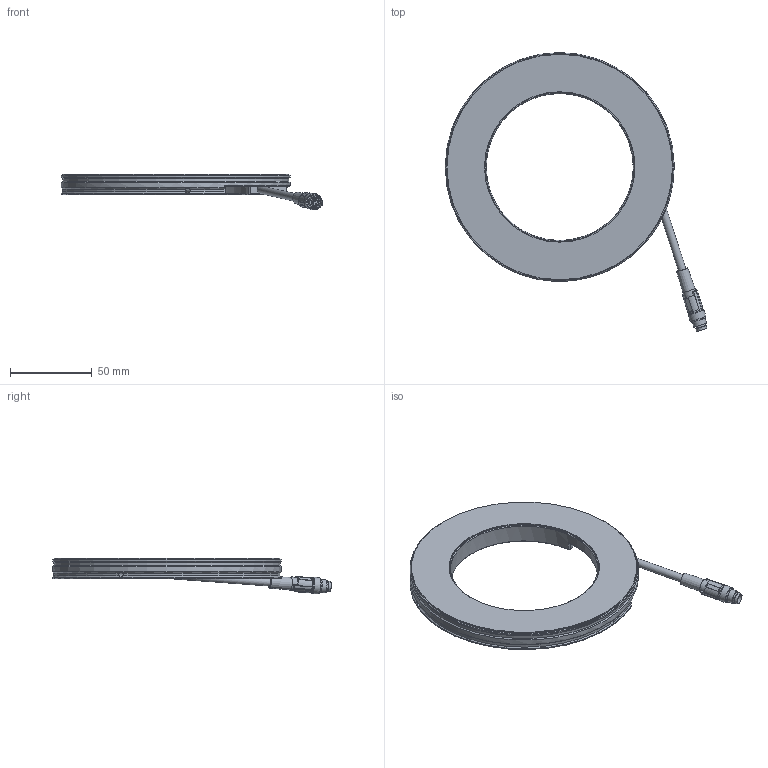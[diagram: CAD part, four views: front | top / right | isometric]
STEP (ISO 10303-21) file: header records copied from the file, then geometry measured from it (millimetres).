
FILE_DESCRIPTION(/* description */ ('Unknown'),/* implementation_level */ '2;1');
FILE_NAME(/* name */ '10X.0079_BR140',/* time_stamp */ '2024-01-16T08:51:56+01:00',/* author */ ('AW'),/* organization */ ('iiM AG'),/* preprocessor_version */ 'ST-DEVELOPER v16.7',/* originating_system */ 'DEX',/* authorisation */ $);
FILE_SCHEMA (('CONFIG_CONTROL_DESIGN'));
Length unit declared in the file: millimetre
Products named in the file (1): BR140
Bounding box: 159.9 x 170.57 x 21.97 mm (x, y, z)
Volume: 59086.9 mm3; surface area: 49389.2 mm2
Topology: 1 solids, 1 shells, 205 faces, 506 edges, 331 vertices
Faces by surface type: cylinder 103, plane 89, cone 7, torus 6
Full cylindrical faces by diameter (mm): 1 x4, 1.567 x8, 2 x1, 2.459 x2, 3.1 x2, 3.242 x12, 4.2 x1, 4.7 x2, 5 x1, 5.7 x1, 6.35 x1, 8 x2, 9 x1, 9.3 x2, 10 x1, 90 x1, 92 x1, 96 x1, 134 x1, 138 x1, 138.5 x1, 140 x2
Entity records: 7855 total; most frequent: CARTESIAN_POINT 1706, DIRECTION 1021, ORIENTED_EDGE 872, EDGE_CURVE 436, AXIS2_PLACEMENT_3D 425, VERTEX_POINT 317, EDGE_LOOP 299, FACE_BOUND 299
